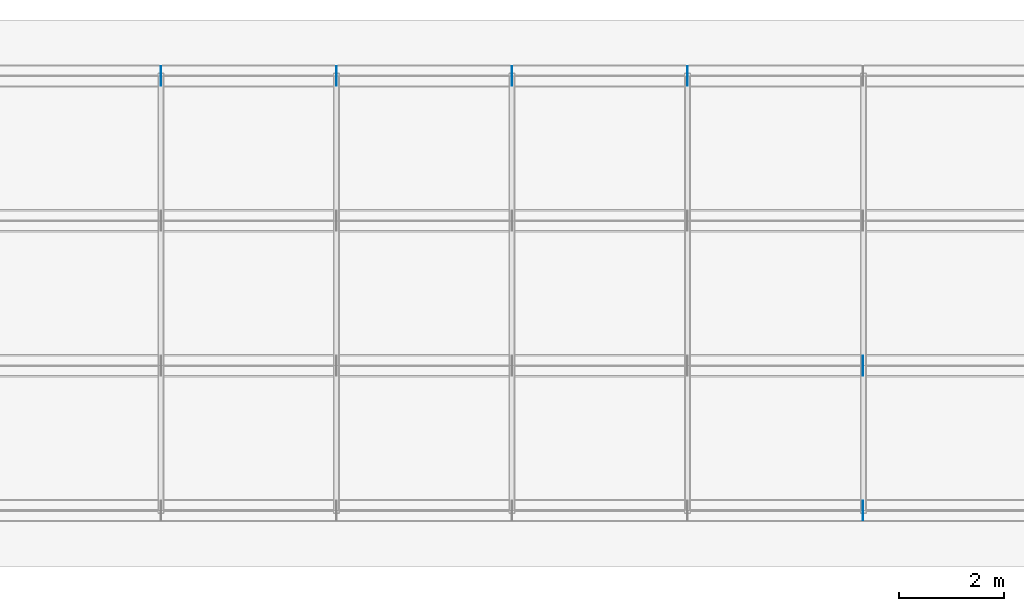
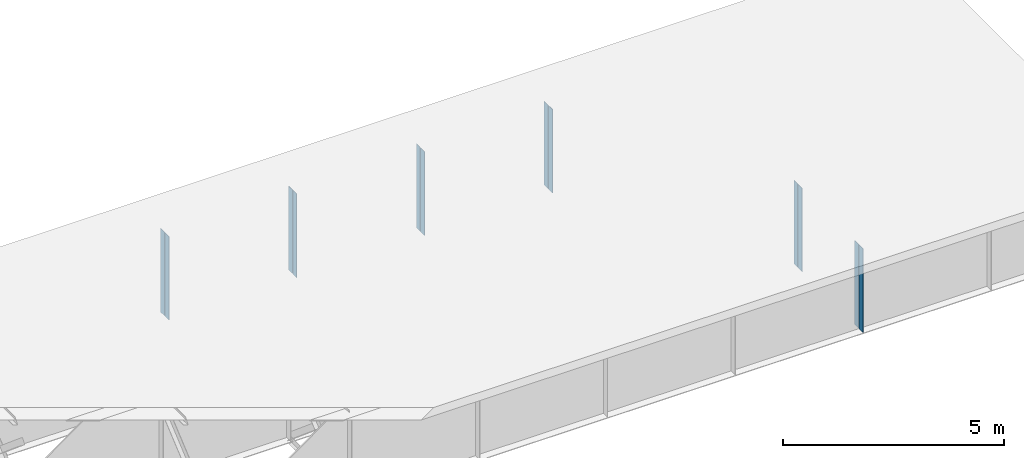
# One storey, part 12 of 13: 12 plates.
"""IFC4 building model written with IfcOpenShell, lengths in metres."""

from ifc_helpers import new_model, si_unit, frame, origin, origin_with_axes, origin_2d_with_axis, place, context, subcontext, project, spatial, rectangle, extrude, element, save


model = new_model("IFC4")

# Units and contexts
model_context = context("Model", 3, precision=1e-05, world=origin())
body_context = subcontext(model_context, "Body", "Model", "MODEL_VIEW")
ifc_project = project(units=[si_unit("LENGTHUNIT", "METRE"), si_unit("AREAUNIT", "SQUARE_METRE"), si_unit("VOLUMEUNIT", "CUBIC_METRE"), si_unit("PLANEANGLEUNIT", "RADIAN")], contexts=[model_context])

# Site, building, storey
site_placement = place(None, origin_with_axes())
site = spatial("IfcSite", under=ifc_project, at=site_placement, Name="Default Site")
building_placement = place(site_placement, origin_with_axes())
building = spatial("IfcBuilding", under=site, at=building_placement, Name="Bridge Structure")
storey_placement = place(building_placement, origin_with_axes())
storey = spatial("IfcBuildingStorey", under=building, at=storey_placement, Name="Superstructure")

# Plates
for number, where, z_axis, x_axis, name in (
    (1, (33.33, -4.02625, -1.155), (0.0, 0.0, 1.0), (1.0, 0.0, 0.0), "Intermediate Stiffener 1"),
    (2, (33.33, -4.22375, -1.155), (0.0, 0.0, 1.0), (1.0, 0.0, 0.0), "Intermediate Stiffener 1"),
    (3, (33.33, -1.27625, -1.155), (0.0, 0.0, 1.0), (1.0, 0.0, 0.0), "Intermediate Stiffener 2"),
    (4, (33.33, -1.4737500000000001, -1.155), (0.0, 0.0, 1.0), (1.0, 0.0, 0.0), "Intermediate Stiffener 2"),
    (5, (19.998, 4.22375, -1.155), (0.0, 0.0, 1.0), (1.0, 0.0, 0.0), "Intermediate Stiffener 4"),
    (6, (19.998, 4.02625, -1.155), (0.0, 0.0, 1.0), (1.0, 0.0, 0.0), "Intermediate Stiffener 4"),
    (7, (23.331, 4.22375, -1.155), (0.0, 0.0, 1.0), (1.0, 0.0, 0.0), "Intermediate Stiffener 4"),
    (8, (23.331, 4.02625, -1.155), (0.0, 0.0, 1.0), (1.0, 0.0, 0.0), "Intermediate Stiffener 4"),
    (9, (26.664, 4.22375, -1.155), (0.0, 0.0, 1.0), (1.0, 0.0, 0.0), "Intermediate Stiffener 4"),
    (10, (26.664, 4.02625, -1.155), (0.0, 0.0, 1.0), (1.0, 0.0, 0.0), "Intermediate Stiffener 4"),
    (11, (29.997, 4.22375, -1.155), (0.0, 0.0, 1.0), (1.0, 0.0, 0.0), "Intermediate Stiffener 4"),
    (12, (29.997, 4.02625, -1.155), (0.0, 0.0, 1.0), (1.0, 0.0, 0.0), "Intermediate Stiffener 4"),
):
    element("IfcPlate", number, at=place(storey_placement, frame(where, z_axis=z_axis, x_axis=x_axis)), inside=storey, Name=name, context=body_context, shape_type="SweptSolid", body=[
        extrude(rectangle(XDim=0.012, YDim=0.1775, at=origin_2d_with_axis()), origin_with_axes(), (0.0, 0.0, 1.0), 2.31),
    ])

save(model, "model.ifc")
